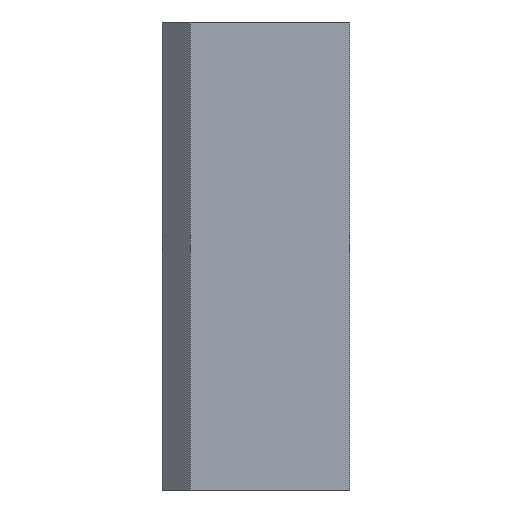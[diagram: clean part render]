
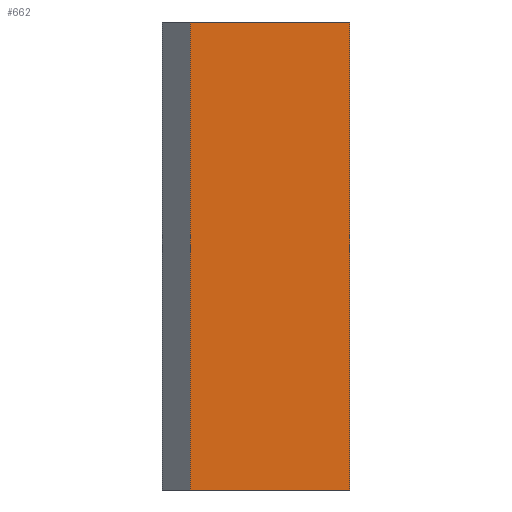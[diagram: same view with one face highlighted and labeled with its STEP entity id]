
A CAD part, front view. The second image highlights one B-rep face of the part: STEP entity #662.
In plain terms, the highlighted planar face has unit normal (0, -1, 0).
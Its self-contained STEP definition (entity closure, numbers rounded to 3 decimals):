
#286=CARTESIAN_POINT('Vertex',(20.,0.,-25.)) ;
#289=CARTESIAN_POINT('Line Origine',(11.5,0.,-25.)) ;
#293=CARTESIAN_POINT('Vertex',(3.,0.,-25.)) ;
#316=CARTESIAN_POINT('Line Origine',(3.,0.,0.)) ;
#320=CARTESIAN_POINT('Vertex',(3.,0.,25.)) ;
#340=CARTESIAN_POINT('Line Origine',(11.5,0.,25.)) ;
#344=CARTESIAN_POINT('Vertex',(20.,0.,25.)) ;
#571=CARTESIAN_POINT('Line Origine',(20.,0.,0.)) ;
#651=CARTESIAN_POINT('Axis2P3D Location',(3.,0.,25.)) ;
#290=DIRECTION('Vector Direction',(1.,0.,0.)) ;
#317=DIRECTION('Vector Direction',(0.,0.,-1.)) ;
#341=DIRECTION('Vector Direction',(1.,0.,0.)) ;
#572=DIRECTION('Vector Direction',(0.,0.,-1.)) ;
#652=DIRECTION('Axis2P3D Direction',(0.,1.,0.)) ;
#653=DIRECTION('Axis2P3D XDirection',(0.,-0.,1.)) ;
#654=AXIS2_PLACEMENT_3D('Plane Axis2P3D',#651,#652,#653) ;
#657=ORIENTED_EDGE('',*,*,#295,.T.) ;
#658=ORIENTED_EDGE('',*,*,#575,.F.) ;
#659=ORIENTED_EDGE('',*,*,#346,.F.) ;
#660=ORIENTED_EDGE('',*,*,#322,.T.) ;
#291=VECTOR('Line Direction',#290,1.) ;
#318=VECTOR('Line Direction',#317,1.) ;
#342=VECTOR('Line Direction',#341,1.) ;
#573=VECTOR('Line Direction',#572,1.) ;
#662=ADVANCED_FACE('A915-50X80',(#661),#655,.F.) ;
#295=EDGE_CURVE('',#294,#287,#292,.T.) ;
#322=EDGE_CURVE('',#321,#294,#319,.T.) ;
#346=EDGE_CURVE('',#321,#345,#343,.T.) ;
#575=EDGE_CURVE('',#345,#287,#574,.T.) ;
#656=EDGE_LOOP('',(#657,#658,#659,#660)) ;
#661=FACE_OUTER_BOUND('',#656,.T.) ;
#292=LINE('Line',#289,#291) ;
#319=LINE('Line',#316,#318) ;
#343=LINE('Line',#340,#342) ;
#574=LINE('Line',#571,#573) ;
#655=PLANE('Plane',#654) ;
#287=VERTEX_POINT('',#286) ;
#294=VERTEX_POINT('',#293) ;
#321=VERTEX_POINT('',#320) ;
#345=VERTEX_POINT('',#344) ;
